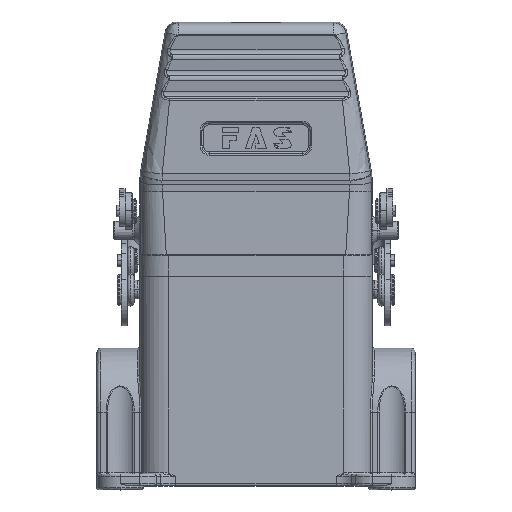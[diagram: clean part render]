
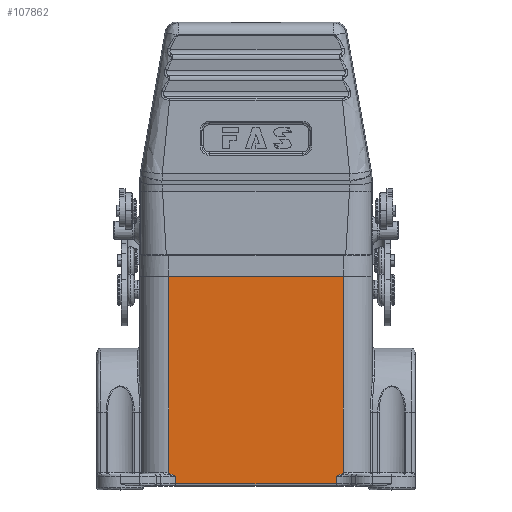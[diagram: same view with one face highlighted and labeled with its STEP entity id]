
A CAD part, top view. The second image highlights one B-rep face of the part: STEP entity #107862.
In plain terms, the highlighted planar face has unit normal (0, 0, 1) as drawn and (1, 0, 0) by its records, which use the part's own axes.
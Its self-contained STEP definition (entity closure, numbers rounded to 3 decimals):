
#660 = CARTESIAN_POINT ( 'NONE',  ( 21.5, 2.5, -20.737 ) ) ;
#1311 = VECTOR ( 'NONE', #92444, 1000. ) ;
#1442 = CARTESIAN_POINT ( 'NONE',  ( 21.5, 2.5, -20.737 ) ) ;
#1875 = CARTESIAN_POINT ( 'NONE',  ( 21.5, 54., 22.5 ) ) ;
#4747 = CARTESIAN_POINT ( 'NONE',  ( 21.5, 0.5, -20.737 ) ) ;
#4820 = CARTESIAN_POINT ( 'NONE',  ( 21.5, 2.756, 21.314 ) ) ;
#5177 = ORIENTED_EDGE ( 'NONE', *, *, #123320, .F. ) ;
#6162 = CARTESIAN_POINT ( 'NONE',  ( 21.5, 0., 20.737 ) ) ;
#6791 = LINE ( 'NONE', #6162, #98084 ) ;
#10652 = CARTESIAN_POINT ( 'NONE',  ( 21.5, 0., 22.5 ) ) ;
#11035 = VECTOR ( 'NONE', #72714, 1000. ) ;
#12668 = VECTOR ( 'NONE', #97257, 1000. ) ;
#13428 = DIRECTION ( 'NONE',  ( 1., 0., 0. ) ) ;
#14078 = FACE_OUTER_BOUND ( 'NONE', #99847, .T. ) ;
#14386 = CARTESIAN_POINT ( 'NONE',  ( 21.5, 3.123, 22.222 ) ) ;
#15996 = EDGE_CURVE ( 'NONE', #102643, #34452, #47061, .T. ) ;
#17639 = EDGE_CURVE ( 'NONE', #34452, #58745, #62807, .T. ) ;
#18234 = AXIS2_PLACEMENT_3D ( 'NONE', #43866, #13428, #41365 ) ;
#21611 = CARTESIAN_POINT ( 'NONE',  ( 21.5, 3.125, -22.227 ) ) ;
#24805 = EDGE_CURVE ( 'NONE', #50087, #52259, #6791, .T. ) ;
#25515 = CARTESIAN_POINT ( 'NONE',  ( 21.5, 3.216, 22.5 ) ) ;
#25782 = CARTESIAN_POINT ( 'NONE',  ( 21.5, 2.804, 21.424 ) ) ;
#25896 = CARTESIAN_POINT ( 'NONE',  ( 21.5, 54., 30. ) ) ;
#34452 = VERTEX_POINT ( 'NONE', #52093 ) ;
#35955 = ORIENTED_EDGE ( 'NONE', *, *, #43806, .T. ) ;
#36380 = CARTESIAN_POINT ( 'NONE',  ( 21.5, 2.5, 20.737 ) ) ;
#37684 = ORIENTED_EDGE ( 'NONE', *, *, #38948, .T. ) ;
#37764 = CARTESIAN_POINT ( 'NONE',  ( 21.5, 54., -22.5 ) ) ;
#38948 = EDGE_CURVE ( 'NONE', #98301, #42649, #97280, .T. ) ;
#39216 = DIRECTION ( 'NONE',  ( 0., -1., 0. ) ) ;
#39462 = CARTESIAN_POINT ( 'NONE',  ( 21.5, 3.015, -21.934 ) ) ;
#40072 = CARTESIAN_POINT ( 'NONE',  ( 21.5, 2.854, -21.544 ) ) ;
#41365 = DIRECTION ( 'NONE',  ( 0., 1., 0. ) ) ;
#42649 = VERTEX_POINT ( 'NONE', #25515 ) ;
#43806 = EDGE_CURVE ( 'NONE', #58745, #98301, #73960, .T. ) ;
#43866 = CARTESIAN_POINT ( 'NONE',  ( 21.5, 0., 30. ) ) ;
#45737 = B_SPLINE_CURVE_WITH_KNOTS ( 'NONE', 3,
 ( #91499, #14386, #82655, #82025, #72598, #25782, #4820, #113030, #120696, #62502 ),
 .UNSPECIFIED., .F., .F.,
 ( 4, 1, 2, 2, 1, 4 ),
 ( 0., 0.5, 0.563, 0.625, 0.75, 1. ),
 .UNSPECIFIED. ) ;
#46973 = ORIENTED_EDGE ( 'NONE', *, *, #15996, .T. ) ;
#47061 = B_SPLINE_CURVE_WITH_KNOTS ( 'NONE', 3,
 ( #660, #108267, #97519, #107647, #47668, #40072, #39462, #21611, #86787 ),
 .UNSPECIFIED., .F., .F.,
 ( 4, 1, 2, 2, 4 ),
 ( 0., 0.25, 0.375, 0.5, 1. ),
 .UNSPECIFIED. ) ;
#47668 = CARTESIAN_POINT ( 'NONE',  ( 21.5, 2.819, -21.461 ) ) ;
#50087 = VERTEX_POINT ( 'NONE', #36380 ) ;
#52093 = CARTESIAN_POINT ( 'NONE',  ( 21.5, 3.216, -22.5 ) ) ;
#52259 = VERTEX_POINT ( 'NONE', #78271 ) ;
#58745 = VERTEX_POINT ( 'NONE', #37764 ) ;
#60975 = VERTEX_POINT ( 'NONE', #4747 ) ;
#61634 = ORIENTED_EDGE ( 'NONE', *, *, #17639, .T. ) ;
#62502 = CARTESIAN_POINT ( 'NONE',  ( 21.5, 2.5, 20.737 ) ) ;
#62807 = LINE ( 'NONE', #82980, #1311 ) ;
#66333 = CARTESIAN_POINT ( 'NONE',  ( 21.5, 0., -20.737 ) ) ;
#72598 = CARTESIAN_POINT ( 'NONE',  ( 21.5, 2.819, 21.46 ) ) ;
#72714 = DIRECTION ( 'NONE',  ( 0., 0., 1. ) ) ;
#73960 = LINE ( 'NONE', #25896, #11035 ) ;
#78271 = CARTESIAN_POINT ( 'NONE',  ( 21.5, 0.5, 20.737 ) ) ;
#82025 = CARTESIAN_POINT ( 'NONE',  ( 21.5, 2.852, 21.538 ) ) ;
#82655 = CARTESIAN_POINT ( 'NONE',  ( 21.5, 2.999, 21.89 ) ) ;
#82980 = CARTESIAN_POINT ( 'NONE',  ( 21.5, 0., -22.5 ) ) ;
#86787 = CARTESIAN_POINT ( 'NONE',  ( 21.5, 3.216, -22.5 ) ) ;
#89085 = ORIENTED_EDGE ( 'NONE', *, *, #100879, .T. ) ;
#91499 = CARTESIAN_POINT ( 'NONE',  ( 21.5, 3.216, 22.5 ) ) ;
#92444 = DIRECTION ( 'NONE',  ( 0., 1., 0. ) ) ;
#97257 = DIRECTION ( 'NONE',  ( 0., 1., 0. ) ) ;
#97280 = LINE ( 'NONE', #10652, #111200 ) ;
#97519 = CARTESIAN_POINT ( 'NONE',  ( 21.5, 2.661, -21.094 ) ) ;
#98084 = VECTOR ( 'NONE', #112462, 1000. ) ;
#98301 = VERTEX_POINT ( 'NONE', #1875 ) ;
#99801 = EDGE_CURVE ( 'NONE', #60975, #102643, #113793, .T. ) ;
#99847 = EDGE_LOOP ( 'NONE', ( #37684, #89085, #110641, #5177, #120911, #46973, #61634, #35955 ) ) ;
#100879 = EDGE_CURVE ( 'NONE', #42649, #50087, #45737, .T. ) ;
#102643 = VERTEX_POINT ( 'NONE', #1442 ) ;
#107647 = CARTESIAN_POINT ( 'NONE',  ( 21.5, 2.756, -21.314 ) ) ;
#107862 = ADVANCED_FACE ( 'NONE', ( #14078 ), #110202, .T. ) ;
#108267 = CARTESIAN_POINT ( 'NONE',  ( 21.5, 2.565, -20.879 ) ) ;
#110202 = PLANE ( 'NONE',  #18234 ) ;
#110298 = VECTOR ( 'NONE', #114736, 1000. ) ;
#110641 = ORIENTED_EDGE ( 'NONE', *, *, #24805, .T. ) ;
#111200 = VECTOR ( 'NONE', #39216, 1000. ) ;
#112462 = DIRECTION ( 'NONE',  ( 0., -1., 0. ) ) ;
#113030 = CARTESIAN_POINT ( 'NONE',  ( 21.5, 2.662, 21.095 ) ) ;
#113793 = LINE ( 'NONE', #66333, #12668 ) ;
#114736 = DIRECTION ( 'NONE',  ( 0., 0., 1. ) ) ;
#120696 = CARTESIAN_POINT ( 'NONE',  ( 21.5, 2.565, 20.879 ) ) ;
#120911 = ORIENTED_EDGE ( 'NONE', *, *, #99801, .T. ) ;
#122418 = CARTESIAN_POINT ( 'NONE',  ( 21.5, 0.5, -22.746 ) ) ;
#123320 = EDGE_CURVE ( 'NONE', #60975, #52259, #123680, .T. ) ;
#123680 = LINE ( 'NONE', #122418, #110298 ) ;
